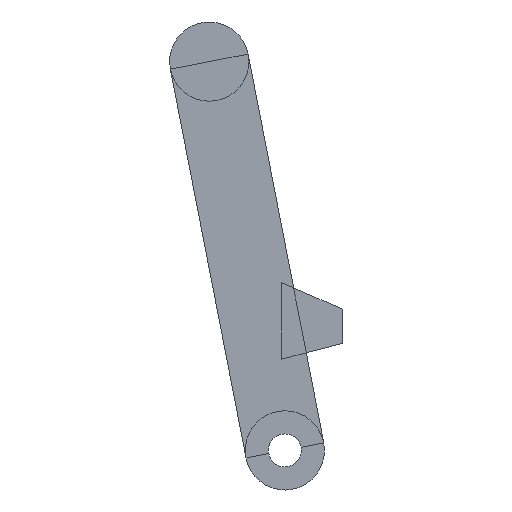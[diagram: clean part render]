
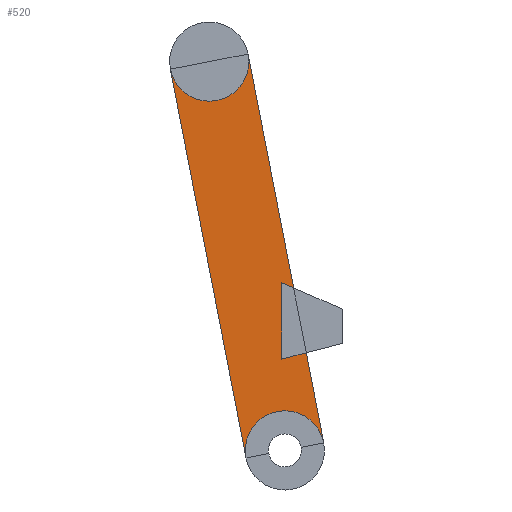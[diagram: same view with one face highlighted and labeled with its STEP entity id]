
A CAD part, front view. The second image highlights one B-rep face of the part: STEP entity #520.
In plain terms, the highlighted planar face has unit normal (0, -1, 0).
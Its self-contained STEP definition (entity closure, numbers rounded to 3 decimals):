
#24 = VERTEX_POINT('',#25);
#25 = CARTESIAN_POINT('',(64.514,-32.,175.601));
#32 = PLANE('',#33);
#33 = AXIS2_PLACEMENT_3D('',#34,#35,#36);
#34 = CARTESIAN_POINT('',(64.514,-24.,175.601));
#35 = DIRECTION('',(-0.982,-0.,-0.191));
#36 = DIRECTION('',(-0.191,0.,0.982));
#56 = EDGE_CURVE('',#24,#57,#59,.T.);
#57 = VERTEX_POINT('',#58);
#58 = CARTESIAN_POINT('',(35.893,-32.,322.845));
#59 = SURFACE_CURVE('',#60,(#64,#71),.PCURVE_S1.);
#60 = LINE('',#61,#62);
#61 = CARTESIAN_POINT('',(64.514,-32.,175.601));
#62 = VECTOR('',#63,1.);
#63 = DIRECTION('',(-0.191,0.,0.982));
#64 = PCURVE('',#32,#65);
#65 = DEFINITIONAL_REPRESENTATION('',(#66),#70);
#66 = LINE('',#67,#68);
#67 = CARTESIAN_POINT('',(0.,-8.));
#68 = VECTOR('',#69,1.);
#69 = DIRECTION('',(1.,0.));
#70 = ( GEOMETRIC_REPRESENTATION_CONTEXT(2) 
PARAMETRIC_REPRESENTATION_CONTEXT() REPRESENTATION_CONTEXT('2D SPACE',''
  ) );
#71 = PCURVE('',#72,#77);
#72 = PLANE('',#73);
#73 = AXIS2_PLACEMENT_3D('',#74,#75,#76);
#74 = CARTESIAN_POINT('',(64.928,-32.,252.085));
#75 = DIRECTION('',(0.,1.,0.));
#76 = DIRECTION('',(0.,-0.,1.));
#77 = DEFINITIONAL_REPRESENTATION('',(#78),#82);
#78 = LINE('',#79,#80);
#79 = CARTESIAN_POINT('',(-76.484,-0.414));
#80 = VECTOR('',#81,1.);
#81 = DIRECTION('',(0.982,-0.191));
#82 = ( GEOMETRIC_REPRESENTATION_CONTEXT(2) 
PARAMETRIC_REPRESENTATION_CONTEXT() REPRESENTATION_CONTEXT('2D SPACE',''
  ) );
#171 = VERTEX_POINT('',#172);
#172 = CARTESIAN_POINT('',(93.963,-32.,181.325));
#186 = PLANE('',#187);
#187 = AXIS2_PLACEMENT_3D('',#188,#189,#190);
#188 = CARTESIAN_POINT('',(65.342,-24.,328.569));
#189 = DIRECTION('',(0.982,0.,0.191));
#190 = DIRECTION('',(0.191,0.,-0.982));
#392 = PLANE('',#393);
#393 = AXIS2_PLACEMENT_3D('',#394,#395,#396);
#394 = CARTESIAN_POINT('',(65.342,-24.,328.569));
#395 = DIRECTION('',(0.982,0.,0.191));
#396 = DIRECTION('',(0.191,0.,-0.982));
#520 = ADVANCED_FACE('',(#521),#72,.F.);
#521 = FACE_BOUND('',#522,.F.);
#522 = EDGE_LOOP('',(#523,#552,#553,#582,#605,#633,#656,#679,#700));
#523 = ORIENTED_EDGE('',*,*,#524,.F.);
#524 = EDGE_CURVE('',#24,#525,#527,.T.);
#525 = VERTEX_POINT('',#526);
#526 = CARTESIAN_POINT('',(79.239,-32.,193.463));
#527 = SURFACE_CURVE('',#528,(#533,#540),.PCURVE_S1.);
#528 = CIRCLE('',#529,15.);
#529 = AXIS2_PLACEMENT_3D('',#530,#531,#532);
#530 = CARTESIAN_POINT('',(79.239,-32.,178.463));
#531 = DIRECTION('',(0.,1.,0.));
#532 = DIRECTION('',(0.,-0.,1.));
#533 = PCURVE('',#72,#534);
#534 = DEFINITIONAL_REPRESENTATION('',(#535),#539);
#535 = CIRCLE('',#536,15.);
#536 = AXIS2_PLACEMENT_2D('',#537,#538);
#537 = CARTESIAN_POINT('',(-73.622,14.311));
#538 = DIRECTION('',(1.,0.));
#539 = ( GEOMETRIC_REPRESENTATION_CONTEXT(2) 
PARAMETRIC_REPRESENTATION_CONTEXT() REPRESENTATION_CONTEXT('2D SPACE',''
  ) );
#540 = PCURVE('',#541,#546);
#541 = PLANE('',#542);
#542 = AXIS2_PLACEMENT_3D('',#543,#544,#545);
#543 = CARTESIAN_POINT('',(64.928,-32.,252.085));
#544 = DIRECTION('',(0.,1.,0.));
#545 = DIRECTION('',(0.,-0.,1.));
#546 = DEFINITIONAL_REPRESENTATION('',(#547),#551);
#547 = CIRCLE('',#548,15.);
#548 = AXIS2_PLACEMENT_2D('',#549,#550);
#549 = CARTESIAN_POINT('',(-73.622,14.311));
#550 = DIRECTION('',(1.,0.));
#551 = ( GEOMETRIC_REPRESENTATION_CONTEXT(2) 
PARAMETRIC_REPRESENTATION_CONTEXT() REPRESENTATION_CONTEXT('2D SPACE',''
  ) );
#552 = ORIENTED_EDGE('',*,*,#56,.T.);
#553 = ORIENTED_EDGE('',*,*,#554,.F.);
#554 = EDGE_CURVE('',#555,#57,#557,.T.);
#555 = VERTEX_POINT('',#556);
#556 = CARTESIAN_POINT('',(65.342,-32.,328.569));
#557 = SURFACE_CURVE('',#558,(#563,#570),.PCURVE_S1.);
#558 = CIRCLE('',#559,15.);
#559 = AXIS2_PLACEMENT_3D('',#560,#561,#562);
#560 = CARTESIAN_POINT('',(50.617,-32.,325.707));
#561 = DIRECTION('',(0.,1.,0.));
#562 = DIRECTION('',(0.,-0.,1.));
#563 = PCURVE('',#72,#564);
#564 = DEFINITIONAL_REPRESENTATION('',(#565),#569);
#565 = CIRCLE('',#566,15.);
#566 = AXIS2_PLACEMENT_2D('',#567,#568);
#567 = CARTESIAN_POINT('',(73.622,-14.311));
#568 = DIRECTION('',(1.,0.));
#569 = ( GEOMETRIC_REPRESENTATION_CONTEXT(2) 
PARAMETRIC_REPRESENTATION_CONTEXT() REPRESENTATION_CONTEXT('2D SPACE',''
  ) );
#570 = PCURVE('',#571,#576);
#571 = PLANE('',#572);
#572 = AXIS2_PLACEMENT_3D('',#573,#574,#575);
#573 = CARTESIAN_POINT('',(64.928,-32.,252.085));
#574 = DIRECTION('',(0.,1.,0.));
#575 = DIRECTION('',(0.,-0.,1.));
#576 = DEFINITIONAL_REPRESENTATION('',(#577),#581);
#577 = CIRCLE('',#578,15.);
#578 = AXIS2_PLACEMENT_2D('',#579,#580);
#579 = CARTESIAN_POINT('',(73.622,-14.311));
#580 = DIRECTION('',(1.,0.));
#581 = ( GEOMETRIC_REPRESENTATION_CONTEXT(2) 
PARAMETRIC_REPRESENTATION_CONTEXT() REPRESENTATION_CONTEXT('2D SPACE',''
  ) );
#582 = ORIENTED_EDGE('',*,*,#583,.T.);
#583 = EDGE_CURVE('',#555,#584,#586,.T.);
#584 = VERTEX_POINT('',#585);
#585 = CARTESIAN_POINT('',(82.554,-32.,240.02));
#586 = SURFACE_CURVE('',#587,(#591,#598),.PCURVE_S1.);
#587 = LINE('',#588,#589);
#588 = CARTESIAN_POINT('',(65.342,-32.,328.569));
#589 = VECTOR('',#590,1.);
#590 = DIRECTION('',(0.191,0.,-0.982));
#591 = PCURVE('',#72,#592);
#592 = DEFINITIONAL_REPRESENTATION('',(#593),#597);
#593 = LINE('',#594,#595);
#594 = CARTESIAN_POINT('',(76.484,0.414));
#595 = VECTOR('',#596,1.);
#596 = DIRECTION('',(-0.982,0.191));
#597 = ( GEOMETRIC_REPRESENTATION_CONTEXT(2) 
PARAMETRIC_REPRESENTATION_CONTEXT() REPRESENTATION_CONTEXT('2D SPACE',''
  ) );
#598 = PCURVE('',#392,#599);
#599 = DEFINITIONAL_REPRESENTATION('',(#600),#604);
#600 = LINE('',#601,#602);
#601 = CARTESIAN_POINT('',(0.,-8.));
#602 = VECTOR('',#603,1.);
#603 = DIRECTION('',(1.,0.));
#604 = ( GEOMETRIC_REPRESENTATION_CONTEXT(2) 
PARAMETRIC_REPRESENTATION_CONTEXT() REPRESENTATION_CONTEXT('2D SPACE',''
  ) );
#605 = ORIENTED_EDGE('',*,*,#606,.T.);
#606 = EDGE_CURVE('',#584,#607,#609,.T.);
#607 = VERTEX_POINT('',#608);
#608 = CARTESIAN_POINT('',(78.,-32.,242.));
#609 = SURFACE_CURVE('',#610,(#614,#621),.PCURVE_S1.);
#610 = LINE('',#611,#612);
#611 = CARTESIAN_POINT('',(101.,-32.,232.));
#612 = VECTOR('',#613,1.);
#613 = DIRECTION('',(-0.917,0.,0.399));
#614 = PCURVE('',#72,#615);
#615 = DEFINITIONAL_REPRESENTATION('',(#616),#620);
#616 = LINE('',#617,#618);
#617 = CARTESIAN_POINT('',(-20.085,36.072));
#618 = VECTOR('',#619,1.);
#619 = DIRECTION('',(0.399,-0.917));
#620 = ( GEOMETRIC_REPRESENTATION_CONTEXT(2) 
PARAMETRIC_REPRESENTATION_CONTEXT() REPRESENTATION_CONTEXT('2D SPACE',''
  ) );
#621 = PCURVE('',#622,#627);
#622 = PLANE('',#623);
#623 = AXIS2_PLACEMENT_3D('',#624,#625,#626);
#624 = CARTESIAN_POINT('',(64.928,-32.,252.085));
#625 = DIRECTION('',(0.,1.,0.));
#626 = DIRECTION('',(0.,-0.,1.));
#627 = DEFINITIONAL_REPRESENTATION('',(#628),#632);
#628 = LINE('',#629,#630);
#629 = CARTESIAN_POINT('',(-20.085,36.072));
#630 = VECTOR('',#631,1.);
#631 = DIRECTION('',(0.399,-0.917));
#632 = ( GEOMETRIC_REPRESENTATION_CONTEXT(2) 
PARAMETRIC_REPRESENTATION_CONTEXT() REPRESENTATION_CONTEXT('2D SPACE',''
  ) );
#633 = ORIENTED_EDGE('',*,*,#634,.T.);
#634 = EDGE_CURVE('',#607,#635,#637,.T.);
#635 = VERTEX_POINT('',#636);
#636 = CARTESIAN_POINT('',(78.,-32.,213.));
#637 = SURFACE_CURVE('',#638,(#642,#649),.PCURVE_S1.);
#638 = LINE('',#639,#640);
#639 = CARTESIAN_POINT('',(78.,-32.,242.));
#640 = VECTOR('',#641,1.);
#641 = DIRECTION('',(0.,0.,-1.));
#642 = PCURVE('',#72,#643);
#643 = DEFINITIONAL_REPRESENTATION('',(#644),#648);
#644 = LINE('',#645,#646);
#645 = CARTESIAN_POINT('',(-10.085,13.072));
#646 = VECTOR('',#647,1.);
#647 = DIRECTION('',(-1.,0.));
#648 = ( GEOMETRIC_REPRESENTATION_CONTEXT(2) 
PARAMETRIC_REPRESENTATION_CONTEXT() REPRESENTATION_CONTEXT('2D SPACE',''
  ) );
#649 = PCURVE('',#622,#650);
#650 = DEFINITIONAL_REPRESENTATION('',(#651),#655);
#651 = LINE('',#652,#653);
#652 = CARTESIAN_POINT('',(-10.085,13.072));
#653 = VECTOR('',#654,1.);
#654 = DIRECTION('',(-1.,0.));
#655 = ( GEOMETRIC_REPRESENTATION_CONTEXT(2) 
PARAMETRIC_REPRESENTATION_CONTEXT() REPRESENTATION_CONTEXT('2D SPACE',''
  ) );
#656 = ORIENTED_EDGE('',*,*,#657,.T.);
#657 = EDGE_CURVE('',#635,#658,#660,.T.);
#658 = VERTEX_POINT('',#659);
#659 = CARTESIAN_POINT('',(87.333,-32.,215.435));
#660 = SURFACE_CURVE('',#661,(#665,#672),.PCURVE_S1.);
#661 = LINE('',#662,#663);
#662 = CARTESIAN_POINT('',(78.,-32.,213.));
#663 = VECTOR('',#664,1.);
#664 = DIRECTION('',(0.968,0.,0.252));
#665 = PCURVE('',#72,#666);
#666 = DEFINITIONAL_REPRESENTATION('',(#667),#671);
#667 = LINE('',#668,#669);
#668 = CARTESIAN_POINT('',(-39.085,13.072));
#669 = VECTOR('',#670,1.);
#670 = DIRECTION('',(0.252,0.968));
#671 = ( GEOMETRIC_REPRESENTATION_CONTEXT(2) 
PARAMETRIC_REPRESENTATION_CONTEXT() REPRESENTATION_CONTEXT('2D SPACE',''
  ) );
#672 = PCURVE('',#622,#673);
#673 = DEFINITIONAL_REPRESENTATION('',(#674),#678);
#674 = LINE('',#675,#676);
#675 = CARTESIAN_POINT('',(-39.085,13.072));
#676 = VECTOR('',#677,1.);
#677 = DIRECTION('',(0.252,0.968));
#678 = ( GEOMETRIC_REPRESENTATION_CONTEXT(2) 
PARAMETRIC_REPRESENTATION_CONTEXT() REPRESENTATION_CONTEXT('2D SPACE',''
  ) );
#679 = ORIENTED_EDGE('',*,*,#680,.T.);
#680 = EDGE_CURVE('',#658,#171,#681,.T.);
#681 = SURFACE_CURVE('',#682,(#686,#693),.PCURVE_S1.);
#682 = LINE('',#683,#684);
#683 = CARTESIAN_POINT('',(65.342,-32.,328.569));
#684 = VECTOR('',#685,1.);
#685 = DIRECTION('',(0.191,0.,-0.982));
#686 = PCURVE('',#72,#687);
#687 = DEFINITIONAL_REPRESENTATION('',(#688),#692);
#688 = LINE('',#689,#690);
#689 = CARTESIAN_POINT('',(76.484,0.414));
#690 = VECTOR('',#691,1.);
#691 = DIRECTION('',(-0.982,0.191));
#692 = ( GEOMETRIC_REPRESENTATION_CONTEXT(2) 
PARAMETRIC_REPRESENTATION_CONTEXT() REPRESENTATION_CONTEXT('2D SPACE',''
  ) );
#693 = PCURVE('',#186,#694);
#694 = DEFINITIONAL_REPRESENTATION('',(#695),#699);
#695 = LINE('',#696,#697);
#696 = CARTESIAN_POINT('',(0.,-8.));
#697 = VECTOR('',#698,1.);
#698 = DIRECTION('',(1.,0.));
#699 = ( GEOMETRIC_REPRESENTATION_CONTEXT(2) 
PARAMETRIC_REPRESENTATION_CONTEXT() REPRESENTATION_CONTEXT('2D SPACE',''
  ) );
#700 = ORIENTED_EDGE('',*,*,#701,.F.);
#701 = EDGE_CURVE('',#525,#171,#702,.T.);
#702 = SURFACE_CURVE('',#703,(#708,#715),.PCURVE_S1.);
#703 = CIRCLE('',#704,15.);
#704 = AXIS2_PLACEMENT_3D('',#705,#706,#707);
#705 = CARTESIAN_POINT('',(79.239,-32.,178.463));
#706 = DIRECTION('',(0.,1.,0.));
#707 = DIRECTION('',(0.,-0.,1.));
#708 = PCURVE('',#72,#709);
#709 = DEFINITIONAL_REPRESENTATION('',(#710),#714);
#710 = CIRCLE('',#711,15.);
#711 = AXIS2_PLACEMENT_2D('',#712,#713);
#712 = CARTESIAN_POINT('',(-73.622,14.311));
#713 = DIRECTION('',(1.,0.));
#714 = ( GEOMETRIC_REPRESENTATION_CONTEXT(2) 
PARAMETRIC_REPRESENTATION_CONTEXT() REPRESENTATION_CONTEXT('2D SPACE',''
  ) );
#715 = PCURVE('',#541,#716);
#716 = DEFINITIONAL_REPRESENTATION('',(#717),#721);
#717 = CIRCLE('',#718,15.);
#718 = AXIS2_PLACEMENT_2D('',#719,#720);
#719 = CARTESIAN_POINT('',(-73.622,14.311));
#720 = DIRECTION('',(1.,0.));
#721 = ( GEOMETRIC_REPRESENTATION_CONTEXT(2) 
PARAMETRIC_REPRESENTATION_CONTEXT() REPRESENTATION_CONTEXT('2D SPACE',''
  ) );
